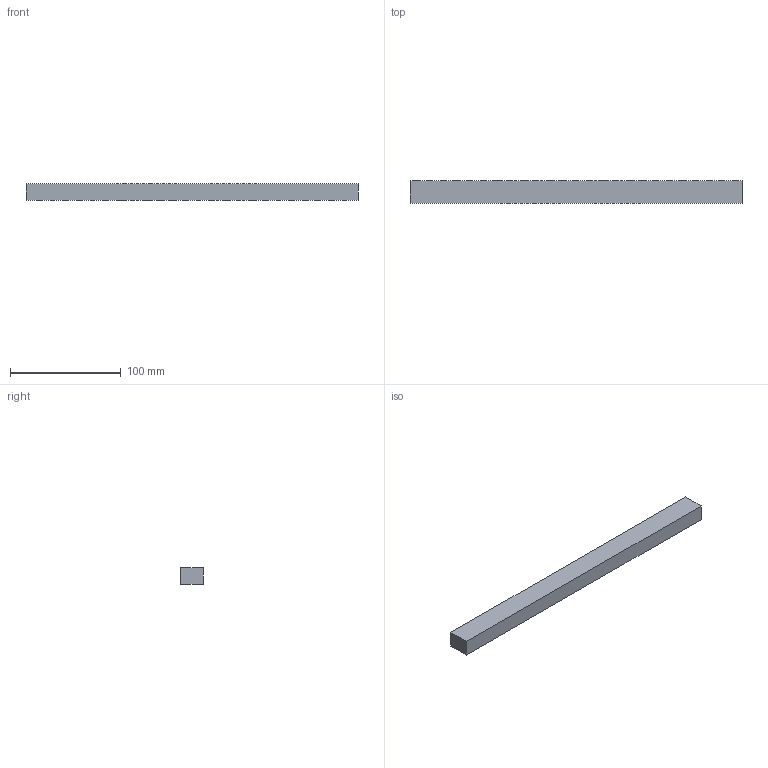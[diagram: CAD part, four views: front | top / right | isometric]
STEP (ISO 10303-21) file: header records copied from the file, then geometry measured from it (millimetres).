
FILE_DESCRIPTION(('CATIA V5 STEP Exchange'),'2;1');
FILE_NAME('C:\Users\Utente\Desktop\3D files G405\G40515300.stp','2020-04-22T09:25:15+00:00',('none'),('none'),'CATIA Version 5 Release 20 GA (IN-10)','CATIA V5 STEP AP203','none');
FILE_SCHEMA(('CONFIG_CONTROL_DESIGN'));
Length unit declared in the file: millimetre
Products named in the file (1): G40515300
Bounding box: 300 x 20 x 15 mm (x, y, z)
Surface area: 26825.4 mm2 (no closed solid volume)
Topology: 0 solids, 617 shells, 617 faces, 2614 edges, 2368 vertices
Faces by surface type: revolution 342, cylinder 196, plane 79
Entity records: 29442 total; most frequent: CARTESIAN_POINT 9924, DIRECTION 3066, ORIENTED_EDGE 2368, EDGE_CURVE 2368, VERTEX_POINT 2368, AXIS2_PLACEMENT_3D 1350, VECTOR 1100, LINE 1100
